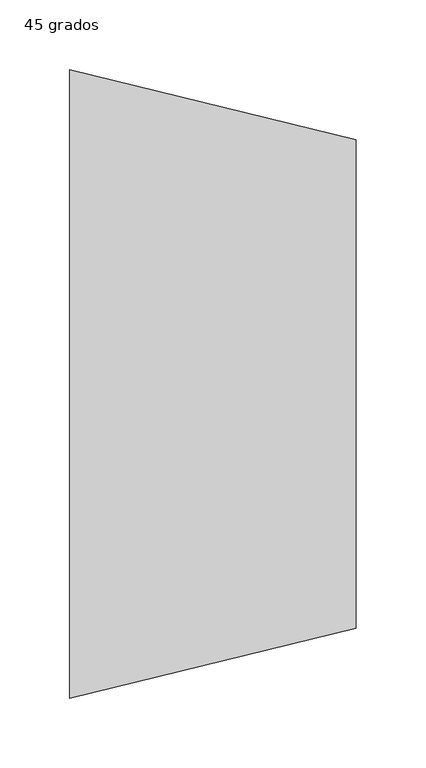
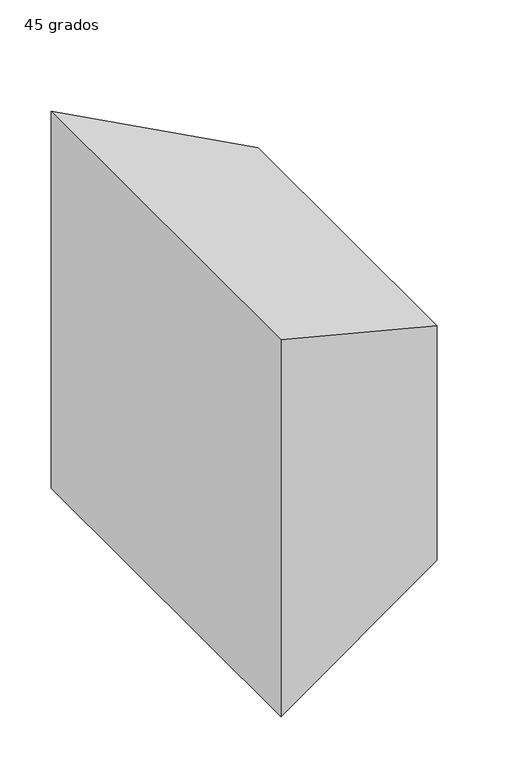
"""IFC4 building model written with IfcOpenShell, lengths in millimetres: duct fitting geometry, M_Transición rectangular - Ángulo : 45 grados."""

from ifc_helpers import new_model, si_unit, origin, place, context, project, spatial, faceted_brep, source, transform, mapped, element, save


def duct_fitting_45_grados_e99a464d(model_context):
    return source(origin(), model_context, "Body", "Brep", [
        faceted_brep([(205.2081528, -175.0, 140.0), (205.2081528, -175.0, -140.0), (205.2081528, 175.0, -140.0), (205.2081528, 175.0, 140.0), (0.0, -225.0, 225.0), (0.0, 225.0, 225.0), (0.0, 225.0, -225.0), (0.0, -225.0, -225.0)], [[[0, 1, 2, 3]], [[4, 5, 6, 7]], [[4, 7, 1, 0]], [[7, 6, 2, 1]], [[6, 5, 3, 2]], [[5, 4, 0, 3]]]),
    ])


if __name__ == "__main__":
    model = new_model("IFC4")
    model_context = context("Model", 3, world=origin())
    ifc_project = project(units=[si_unit("LENGTHUNIT", "METRE", prefix="MILLI")], contexts=[model_context])
    site = spatial("IfcSite", under=ifc_project)
    building = spatial("IfcBuilding", under=site)
    placement = place(None, origin())
    duct_fitting_45_grados_shape = duct_fitting_45_grados_e99a464d(model_context)
    element("IfcDuctFitting", 1, ObjectType="M_Transición rectangular - Ángulo : 45 grados", at=placement, inside=building, context=model_context, shape_type="MappedRepresentation", body=[
        mapped(duct_fitting_45_grados_shape, transform((0.0, 0.0, 0.0), x_axis=(1.0, 0.0, 0.0), y_axis=(0.0, 1.0, 0.0), z_axis=(0.0, 0.0, 1.0))),
    ])
    save(model, "model.ifc")
